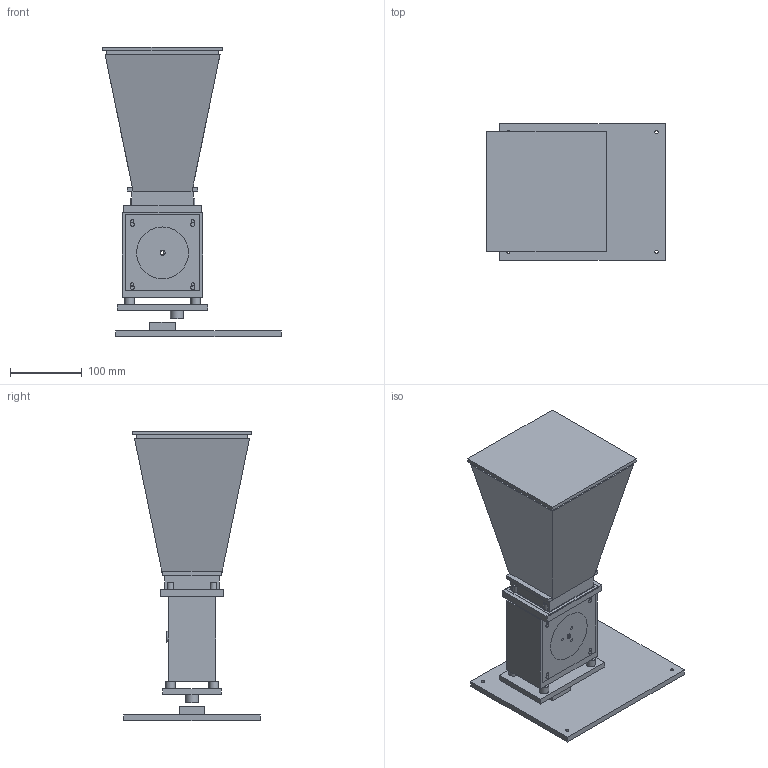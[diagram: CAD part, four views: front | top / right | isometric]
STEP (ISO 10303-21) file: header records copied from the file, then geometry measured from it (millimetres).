
FILE_DESCRIPTION(('Open CASCADE Model'),'2;1');
FILE_NAME('Open CASCADE Shape Model','2026-09-11T00:33:30',('Author'),( 'Open CASCADE'),'Open CASCADE STEP processor 7.9','Open CASCADE 7.9' ,'Unknown');
FILE_SCHEMA(('AUTOMOTIVE_DESIGN { 1 0 10303 214 1 1 1 1 }'));
Length unit declared in the file: millimetre
Products named in the file (12): Open CASCADE STEP translator 7.9 2; Open CASCADE STEP translator 7.9 2.1; Open CASCADE STEP translator 7.9 2.2; Open CASCADE STEP translator 7.9 2.3; Open CASCADE STEP translator 7.9 2.4; Open CASCADE STEP translator 7.9 2.5; Open CASCADE STEP translator 7.9 2.6; Open CASCADE STEP translator 7.9 2.7; Open CASCADE STEP translator 7.9 2.8; Open CASCADE STEP translator 7.9 2.9; Open CASCADE STEP translator 7.9 2.10; Open CASCADE STEP translator 7.9 2.11
Assembly tree (11 placements, depth 2):
  Open CASCADE STEP translator 7.9 2
    Open CASCADE STEP translator 7.9 2.1
    Open CASCADE STEP translator 7.9 2.2
    Open CASCADE STEP translator 7.9 2.3
    Open CASCADE STEP translator 7.9 2.4
    Open CASCADE STEP translator 7.9 2.5
    Open CASCADE STEP translator 7.9 2.6
    Open CASCADE STEP translator 7.9 2.7
    Open CASCADE STEP translator 7.9 2.8
    Open CASCADE STEP translator 7.9 2.9
    Open CASCADE STEP translator 7.9 2.10
    Open CASCADE STEP translator 7.9 2.11
Bounding box: 248 x 190 x 402.7 mm (x, y, z)
Volume: 1680318.5 mm3; surface area: 577828.3 mm2
Topology: 11 solids, 12 shells, 275 faces, 660 edges, 436 vertices
Faces by surface type: plane 173, cylinder 76, bspline 26
Full cylindrical faces by diameter (mm): 4.2 x6, 4.5 x16, 5.6 x12, 6 x1, 6.6 x1, 7 x2, 13 x4, 15 x1, 15.08 x2, 18 x1, 72 x2
Entity records: 21424 total; most frequent: CARTESIAN_POINT 8059, DIRECTION 2350, LINE 1397, VECTOR 1397, ORIENTED_EDGE 1320, PCURVE 1320, DEFINITIONAL_REPRESENTATION 1320, EDGE_CURVE 660
